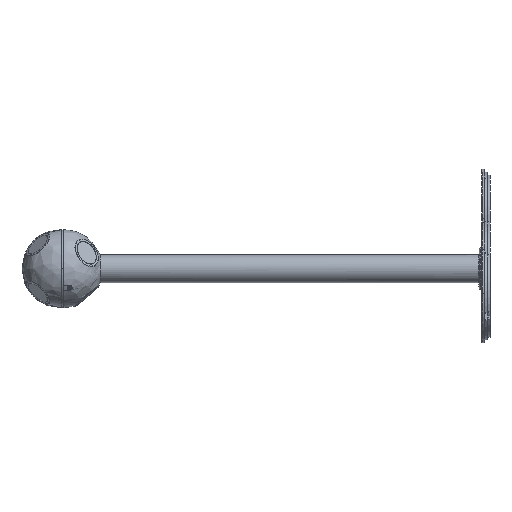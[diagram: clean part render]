
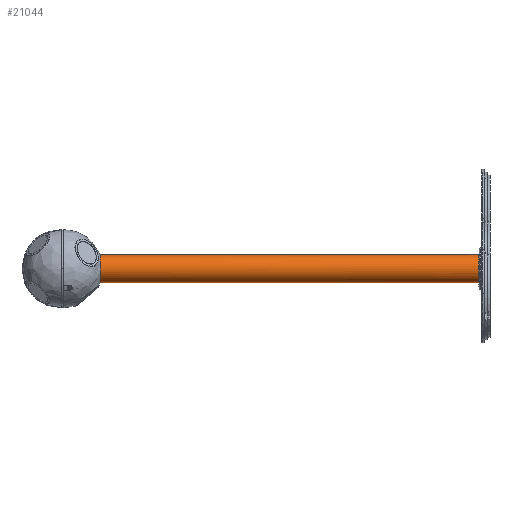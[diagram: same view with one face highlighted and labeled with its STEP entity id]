
A CAD part, left-side view. The second image highlights one B-rep face of the part: STEP entity #21044.
In plain terms, the highlighted cylindrical face has radius 25 mm (diameter 50 mm), a partial arc.
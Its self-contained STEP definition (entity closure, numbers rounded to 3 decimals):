
#97 = CARTESIAN_POINT ( 'NONE',  ( -17.104, 311.617, -18.251 ) ) ;
#308 = CARTESIAN_POINT ( 'NONE',  ( -23.683, 311.617, -8.05 ) ) ;
#1096 = CARTESIAN_POINT ( 'NONE',  ( -1.634, 311.617, 24.96 ) ) ;
#1294 = CARTESIAN_POINT ( 'NONE',  ( -3.276, 311.617, 24.798 ) ) ;
#2092 = CARTESIAN_POINT ( 'NONE',  ( 0., 375., 25. ) ) ;
#2726 = CARTESIAN_POINT ( 'NONE',  ( -16.498, 311.617, -18.802 ) ) ;
#2887 = CARTESIAN_POINT ( 'NONE',  ( 0., -364.7, 0. ) ) ;
#2932 = CARTESIAN_POINT ( 'NONE',  ( -12.523, 311.617, -21.699 ) ) ;
#3324 = CARTESIAN_POINT ( 'NONE',  ( -6.465, 311.617, -24.164 ) ) ;
#3483 = DIRECTION ( 'NONE',  ( 0., -1., 0. ) ) ;
#3530 = CARTESIAN_POINT ( 'NONE',  ( -21.858, 311.617, -12.141 ) ) ;
#4355 = EDGE_LOOP ( 'NONE', ( #17665, #19283, #10133, #9465, #14758 ) ) ;
#5341 = LINE ( 'NONE', #2092, #38180 ) ;
#5974 = CARTESIAN_POINT ( 'NONE',  ( -14.557, 311.617, -20.329 ) ) ;
#6223 = EDGE_CURVE ( 'NONE', #6382, #23291, #29949, .T. ) ;
#6382 = VERTEX_POINT ( 'NONE', #12236 ) ;
#6589 = CARTESIAN_POINT ( 'NONE',  ( -21.656, 311.617, -12.498 ) ) ;
#6680 = B_SPLINE_CURVE_WITH_KNOTS ( 'NONE', 3,
 ( #27925, #21818, #30997, #15510, #3324, #24482, #12682, #30588, #2932, #31392, #5974, #15700, #9636, #2726, #97, #12472, #28134, #34436, #40162, #6589, #3530, #12280, #12078, #308, #25090, #37288, #36694, #37084, #9436, #11872, #21605, #22017, #15912, #24281, #15314, #8839, #21225, #15103, #27525, #36888, #9038, #19763, #37690, #7589, #13072, #25681, #19963, #9828, #29129, #34636, #6987, #35041, #6794, #35237, #10423, #1294, #1096, #28930, #28715 ),
 .UNSPECIFIED., .F., .F.,
 ( 4, 2, 2, 2, 2, 2, 2, 2, 2, 2, 2, 1, 2, 2, 2, 2, 2, 2, 2, 2, 2, 2, 2, 2, 2, 2, 2, 2, 2, 4 ),
 ( 0., 0.005, 0.007, 0.01, 0.015, 0.016, 0.017, 0.02, 0.024, 0.026, 0.027, 0.029, 0.032, 0.033, 0.034, 0.039, 0.042, 0.043, 0.044, 0.049, 0.051, 0.054, 0.059, 0.061, 0.064, 0.066, 0.068, 0.073, 0.076, 0.078 ),
 .UNSPECIFIED. ) ;
#6786 = VERTEX_POINT ( 'NONE', #22480 ) ;
#6794 = CARTESIAN_POINT ( 'NONE',  ( -8.051, 311.617, 23.725 ) ) ;
#6987 = CARTESIAN_POINT ( 'NONE',  ( -11.073, 311.617, 22.429 ) ) ;
#7589 = CARTESIAN_POINT ( 'NONE',  ( -18.849, 311.617, 16.506 ) ) ;
#7996 = DIRECTION ( 'NONE',  ( 0., -1., 0. ) ) ;
#8279 = CARTESIAN_POINT ( 'NONE',  ( 0., -364.7, -25. ) ) ;
#8839 = CARTESIAN_POINT ( 'NONE',  ( -24.599, 311.617, 4.48 ) ) ;
#9038 = CARTESIAN_POINT ( 'NONE',  ( -21.66, 311.617, 12.511 ) ) ;
#9436 = CARTESIAN_POINT ( 'NONE',  ( -24.841, 311.617, -3.262 ) ) ;
#9465 = ORIENTED_EDGE ( 'NONE', *, *, #10892, .F. ) ;
#9636 = CARTESIAN_POINT ( 'NONE',  ( -15.542, 311.617, -19.586 ) ) ;
#9828 = CARTESIAN_POINT ( 'NONE',  ( -14.573, 311.617, 20.33 ) ) ;
#10133 = ORIENTED_EDGE ( 'NONE', *, *, #6223, .T. ) ;
#10423 = CARTESIAN_POINT ( 'NONE',  ( -4.089, 311.617, 24.677 ) ) ;
#10547 = DIRECTION ( 'NONE',  ( 0., -1., 0. ) ) ;
#10892 = EDGE_CURVE ( 'NONE', #14396, #23291, #24367, .T. ) ;
#11872 = CARTESIAN_POINT ( 'NONE',  ( -24.999, 311.617, -1.639 ) ) ;
#11905 = EDGE_CURVE ( 'NONE', #6382, #15705, #6680, .T. ) ;
#12068 = CARTESIAN_POINT ( 'NONE',  ( 0., -364.7, 0. ) ) ;
#12078 = CARTESIAN_POINT ( 'NONE',  ( -23.133, 311.617, -9.584 ) ) ;
#12236 = CARTESIAN_POINT ( 'NONE',  ( 0., 311.617, -25. ) ) ;
#12280 = CARTESIAN_POINT ( 'NONE',  ( -22.436, 311.617, -11.058 ) ) ;
#12472 = CARTESIAN_POINT ( 'NONE',  ( -18.834, 311.617, -16.521 ) ) ;
#12682 = CARTESIAN_POINT ( 'NONE',  ( -8.816, 311.617, -23.408 ) ) ;
#13072 = CARTESIAN_POINT ( 'NONE',  ( -17.099, 311.617, 18.257 ) ) ;
#13114 = EDGE_CURVE ( 'NONE', #6786, #14396, #25504, .T. ) ;
#13902 = CARTESIAN_POINT ( 'NONE',  ( 0., 311.617, 25. ) ) ;
#14396 = VERTEX_POINT ( 'NONE', #34015 ) ;
#14758 = ORIENTED_EDGE ( 'NONE', *, *, #13114, .F. ) ;
#15103 = CARTESIAN_POINT ( 'NONE',  ( -23.728, 311.617, 8.043 ) ) ;
#15314 = CARTESIAN_POINT ( 'NONE',  ( -24.669, 311.617, 4.077 ) ) ;
#15510 = CARTESIAN_POINT ( 'NONE',  ( -5.673, 311.617, -24.362 ) ) ;
#15700 = CARTESIAN_POINT ( 'NONE',  ( -15.216, 311.617, -19.84 ) ) ;
#15705 = VERTEX_POINT ( 'NONE', #13902 ) ;
#15912 = CARTESIAN_POINT ( 'NONE',  ( -24.84, 311.617, 2.853 ) ) ;
#17045 = AXIS2_PLACEMENT_3D ( 'NONE', #2887, #3483, #34395 ) ;
#17665 = ORIENTED_EDGE ( 'NONE', *, *, #27891, .F. ) ;
#19283 = ORIENTED_EDGE ( 'NONE', *, *, #11905, .F. ) ;
#19486 = DIRECTION ( 'NONE',  ( 0., 0., -1. ) ) ;
#19763 = CARTESIAN_POINT ( 'NONE',  ( -21.24, 311.617, 13.211 ) ) ;
#19963 = CARTESIAN_POINT ( 'NONE',  ( -15.227, 311.617, 19.845 ) ) ;
#20383 = VECTOR ( 'NONE', #7996, 1000. ) ;
#21044 = ADVANCED_FACE ( 'NONE', ( #38838 ), #35163, .T. ) ;
#21225 = CARTESIAN_POINT ( 'NONE',  ( -24.2, 311.617, 6.484 ) ) ;
#21605 = CARTESIAN_POINT ( 'NONE',  ( -25., 311.617, 0.806 ) ) ;
#21818 = CARTESIAN_POINT ( 'NONE',  ( -1.652, 311.617, -25. ) ) ;
#22017 = CARTESIAN_POINT ( 'NONE',  ( -24.961, 311.617, 1.624 ) ) ;
#22480 = CARTESIAN_POINT ( 'NONE',  ( 0., -364.7, 25. ) ) ;
#23291 = VERTEX_POINT ( 'NONE', #8279 ) ;
#23433 = DIRECTION ( 'NONE',  ( 0., -1., 0. ) ) ;
#23643 = CARTESIAN_POINT ( 'NONE',  ( 0., 375., -25. ) ) ;
#24281 = CARTESIAN_POINT ( 'NONE',  ( -24.789, 311.617, 3.264 ) ) ;
#24367 = CIRCLE ( 'NONE', #25036, 25. ) ;
#24482 = CARTESIAN_POINT ( 'NONE',  ( -8.036, 311.617, -23.688 ) ) ;
#25036 = AXIS2_PLACEMENT_3D ( 'NONE', #12068, #27721, #36481 ) ;
#25090 = CARTESIAN_POINT ( 'NONE',  ( -24.039, 311.617, -6.876 ) ) ;
#25504 = CIRCLE ( 'NONE', #17045, 25. ) ;
#25613 = CARTESIAN_POINT ( 'NONE',  ( 0., 375., 0. ) ) ;
#25681 = CARTESIAN_POINT ( 'NONE',  ( -16.489, 311.617, 18.809 ) ) ;
#27525 = CARTESIAN_POINT ( 'NONE',  ( -22.788, 311.617, 10.313 ) ) ;
#27721 = DIRECTION ( 'NONE',  ( 0., -1., 0. ) ) ;
#27891 = EDGE_CURVE ( 'NONE', #15705, #6786, #5341, .T. ) ;
#27925 = CARTESIAN_POINT ( 'NONE',  ( 0., 311.617, -25. ) ) ;
#28134 = CARTESIAN_POINT ( 'NONE',  ( -19.869, 311.617, -15.262 ) ) ;
#28715 = CARTESIAN_POINT ( 'NONE',  ( 0., 311.617, 25. ) ) ;
#28930 = CARTESIAN_POINT ( 'NONE',  ( -0.816, 311.617, 25. ) ) ;
#29129 = CARTESIAN_POINT ( 'NONE',  ( -13.219, 311.617, 21.235 ) ) ;
#29949 = LINE ( 'NONE', #23643, #20383 ) ;
#30235 = AXIS2_PLACEMENT_3D ( 'NONE', #25613, #10547, #19486 ) ;
#30588 = CARTESIAN_POINT ( 'NONE',  ( -11.087, 311.617, -22.467 ) ) ;
#30997 = CARTESIAN_POINT ( 'NONE',  ( -3.276, 311.617, -24.838 ) ) ;
#31392 = CARTESIAN_POINT ( 'NONE',  ( -14.222, 311.617, -20.565 ) ) ;
#34015 = CARTESIAN_POINT ( 'NONE',  ( -25., -364.7, 0. ) ) ;
#34395 = DIRECTION ( 'NONE',  ( 1., 0., 0. ) ) ;
#34436 = CARTESIAN_POINT ( 'NONE',  ( -21.011, 311.617, -13.554 ) ) ;
#34636 = CARTESIAN_POINT ( 'NONE',  ( -12.519, 311.617, 21.655 ) ) ;
#35041 = CARTESIAN_POINT ( 'NONE',  ( -10.323, 311.617, 22.784 ) ) ;
#35163 = CYLINDRICAL_SURFACE ( 'NONE', #30235, 25. ) ;
#35237 = CARTESIAN_POINT ( 'NONE',  ( -6.492, 311.617, 24.198 ) ) ;
#36481 = DIRECTION ( 'NONE',  ( 1., 0., 0. ) ) ;
#36694 = CARTESIAN_POINT ( 'NONE',  ( -24.349, 311.617, -5.683 ) ) ;
#36888 = CARTESIAN_POINT ( 'NONE',  ( -22.434, 311.617, 11.062 ) ) ;
#37084 = CARTESIAN_POINT ( 'NONE',  ( -24.44, 311.617, -5.279 ) ) ;
#37288 = CARTESIAN_POINT ( 'NONE',  ( -24.149, 311.617, -6.481 ) ) ;
#37690 = CARTESIAN_POINT ( 'NONE',  ( -19.882, 311.617, 15.243 ) ) ;
#38180 = VECTOR ( 'NONE', #23433, 1000. ) ;
#38838 = FACE_OUTER_BOUND ( 'NONE', #4355, .T. ) ;
#40162 = CARTESIAN_POINT ( 'NONE',  ( -21.232, 311.617, -13.204 ) ) ;
